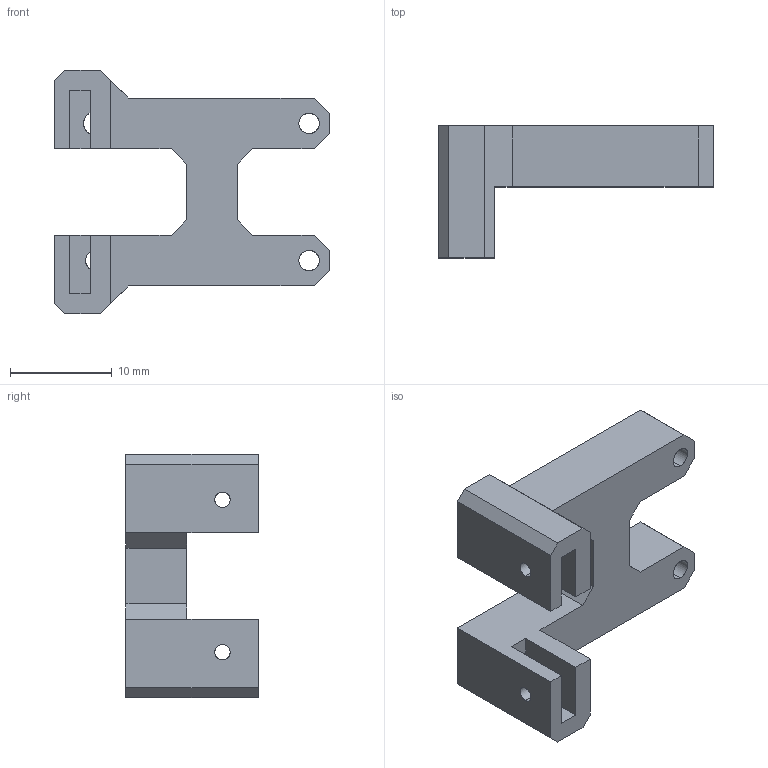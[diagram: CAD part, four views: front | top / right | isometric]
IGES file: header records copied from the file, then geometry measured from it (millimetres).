
Start section: SolidWorks IGES file using analytic representation for surfaces
Global section: file name: C:\Users\Jonathan\Dropbox\BR-Engineering\Models\CAMTILT-X4\CAMTILT-RASBERRYPI-MOUNT-R1.IGS; native system: SolidWorks 2014; preprocessor: SolidWorks 2014; author: Jonathan; date: 160426.144311; units: millimetre
Bounding box: 27.05 x 13 x 24 mm (x, y, z)
Surface area: 2174.5 mm2 (no closed solid volume)
Topology: 0 solids, 0 shells, 58 faces, 744 edges, 744 vertices
Faces by surface type: bspline 42, revolution 16
